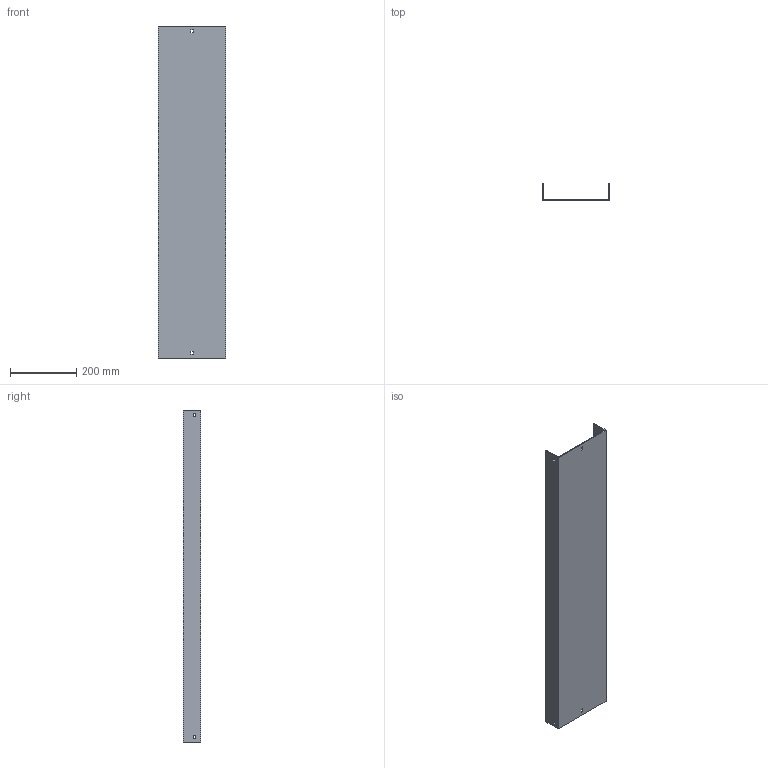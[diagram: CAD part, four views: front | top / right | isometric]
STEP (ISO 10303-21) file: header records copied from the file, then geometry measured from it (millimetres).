
FILE_DESCRIPTION (( 'STEP AP214' ), '1' );
FILE_NAME ('03F1B200.step', '2025-02-21T13:23:05', ( '' ), ( '' ), 'SwSTEP 2.0', 'SolidWorks 2023', '' );
FILE_SCHEMA (( 'AUTOMOTIVE_DESIGN' ));
Length unit declared in the file: millimetre
Products named in the file (1): 03F1B200
Bounding box: 204 x 52 x 1000 mm (x, y, z)
Volume: 1052110.5 mm3; surface area: 611006 mm2
Topology: 1 solids, 1 shells, 34 faces, 96 edges, 64 vertices
Faces by surface type: plane 34
Entity records: 1127 total; most frequent: CARTESIAN_POINT 195, ORIENTED_EDGE 192, DIRECTION 166, EDGE_CURVE 96, VECTOR 96, LINE 96, VERTEX_POINT 64, EDGE_LOOP 46
